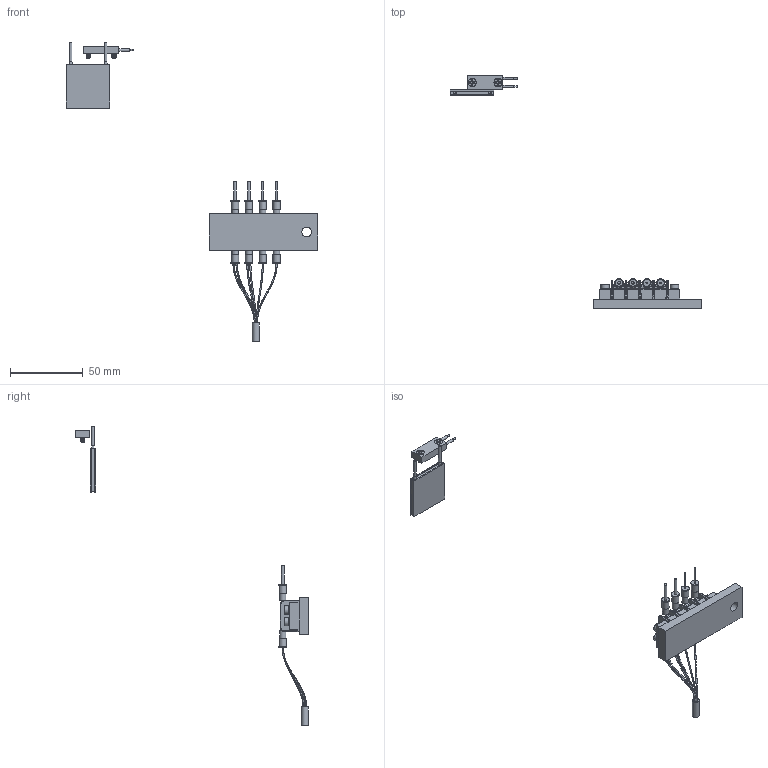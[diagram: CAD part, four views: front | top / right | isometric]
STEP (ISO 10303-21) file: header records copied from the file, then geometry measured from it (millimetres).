
FILE_DESCRIPTION(('', 'CAx-IF Rec.Pracs.---Representation and Presentation of Product Manufacturing Information (PMI)---4.0---2014-10-13'),'2;1');
FILE_NAME('C:/Users/JacobDiepeveen/OneDrive - Luminos/Documents/Jacob/CAD/PT Files/PT0463 Vacuum Part Holder Unification/solids/web/Temperature Controller.STP', '2024-08-28T15:10:14',('JD'), ('Luminos'), 'Kubotek Kosmos Version 5.0.12905.12905', 'KeyCreator Pro', '');
FILE_SCHEMA(('AP242_MANAGED_MODEL_BASED_3D_ENGINEERING_MIM_LF { 1 0 10303 442 4 1 4 }'));
Length unit declared in the file: inch
Bounding box: 172.62 x 159.66 x 205.2 mm (x, y, z)
Volume: 28790.6 mm3; surface area: 15757.1 mm2
Topology: 3 solids, 3 shells, 854 faces, 2262 edges, 1463 vertices
Faces by surface type: plane 502, cylinder 188, bspline 82, cone 58, sphere 16, torus 8
Full cylindrical faces by diameter (mm): 1.016 x2, 1.651 x2, 1.778 x4, 1.986 x8, 2.845 x6, 3.131 x8, 4.42 x8, 4.826 x1, 4.928 x8, 5.588 x8, 5.74 x4, 6.629 x1, 6.75 x8
Entity records: 35890 total; most frequent: CARTESIAN_POINT 11751, ORIENTED_EDGE 4520, DIRECTION 3920, GENERAL_PROPERTY 2917, EDGE_CURVE 2260, VERTEX_POINT 1463, AXIS2_PLACEMENT_3D 1372, VECTOR 1176
